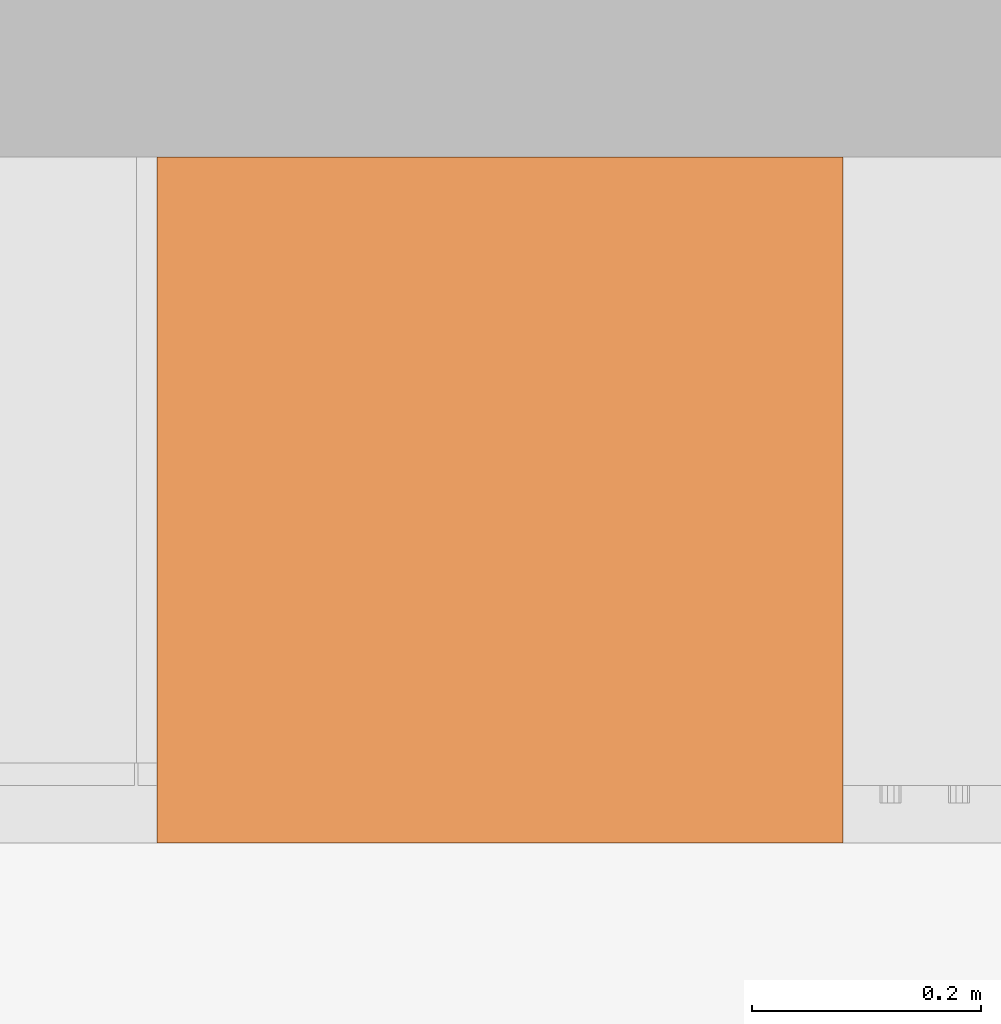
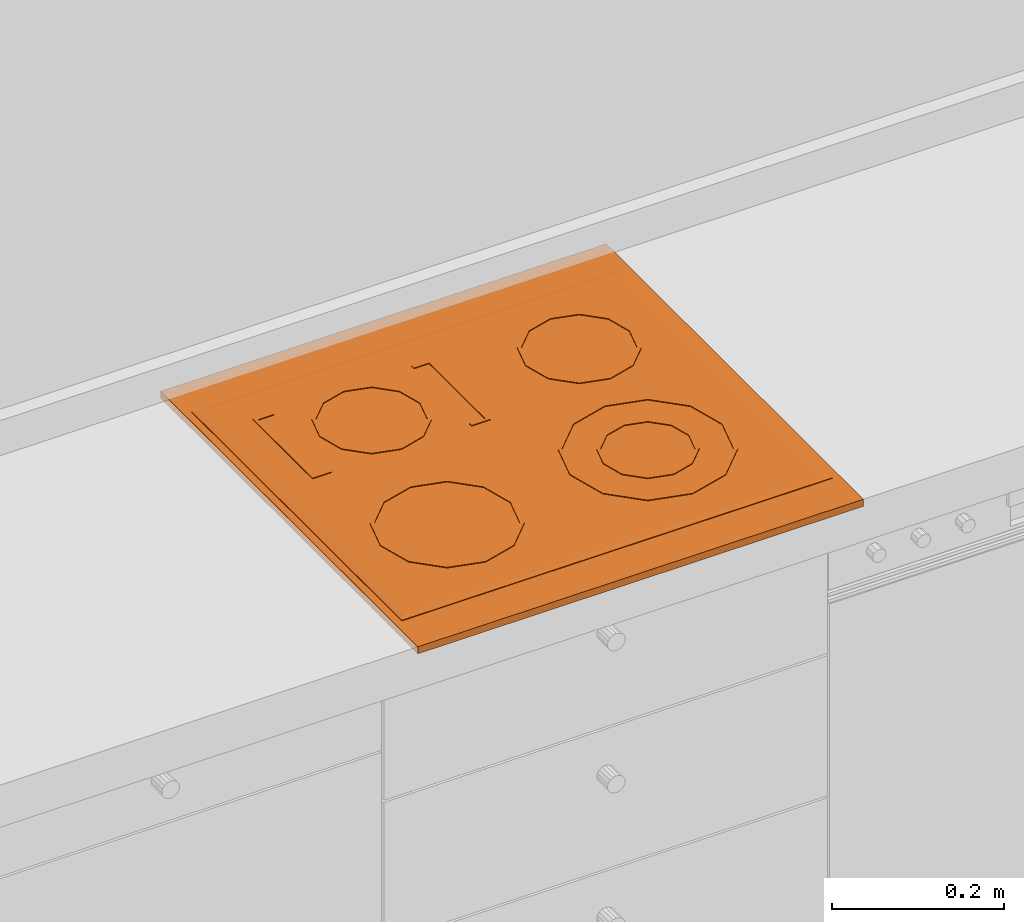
# One storey, part 27 of 28: 1 proxy.
"""IFC4 building model written with IfcOpenShell, lengths in metres."""

from ifc_helpers import new_model, entity, si_unit, converted_unit, derived_unit, direction, frame, origin_with_axes, place, context, subcontext, project, spatial, triangles, type_object, element, save


model = new_model("IFC4")

# Units and contexts
model_context = context("Model", 3, precision=1e-05, world=origin_with_axes(), true_north=direction((-0.526213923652, 0.850352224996)))
body_context = subcontext(model_context, "Body", "Model", "MODEL_VIEW")
ifc_project = project(units=[si_unit("LENGTHUNIT", "METRE"), si_unit("AREAUNIT", "SQUARE_METRE"), si_unit("VOLUMEUNIT", "CUBIC_METRE"), converted_unit("PLANEANGLEUNIT", "DEGREE", entity("IfcPlaneAngleMeasure", 0.0174532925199), si_unit("PLANEANGLEUNIT", "RADIAN"), dimensions=[0, 0, 0, 0, 0, 0, 0]), si_unit("SOLIDANGLEUNIT", "STERADIAN"), converted_unit("TIMEUNIT", "Year", entity("IfcTimeMeasure", 31556926.0), si_unit("TIMEUNIT", "SECOND"), dimensions=[0, 0, 1, 0, 0, 0, 0]), si_unit("MASSUNIT", "GRAM", prefix="KILO"), si_unit("THERMODYNAMICTEMPERATUREUNIT", "DEGREE_CELSIUS"), si_unit("LUMINOUSINTENSITYUNIT", "LUMEN"), si_unit("ENERGYUNIT", "JOULE", prefix="MEGA"), derived_unit("THERMALCONDUCTANCEUNIT", [(si_unit("POWERUNIT", "WATT"), 1), (si_unit("LENGTHUNIT", "METRE"), -1), (si_unit("THERMODYNAMICTEMPERATUREUNIT", "KELVIN"), -1)]), derived_unit("SPECIFICHEATCAPACITYUNIT", [(si_unit("ENERGYUNIT", "JOULE"), 1), (si_unit("MASSUNIT", "GRAM", prefix="KILO"), -1), (si_unit("THERMODYNAMICTEMPERATUREUNIT", "KELVIN"), -1)]), derived_unit("MASSDENSITYUNIT", [(si_unit("MASSUNIT", "GRAM", prefix="KILO"), 1), (si_unit("VOLUMEUNIT", "CUBIC_METRE"), -1)])], contexts=[model_context])

# Site, building, storey, space
site_placement = place(None, origin_with_axes())
site = spatial("IfcSite", under=ifc_project, at=site_placement, Name="Gelände", CompositionType="ELEMENT")
building_placement = place(site_placement, origin_with_axes())
building = spatial("IfcBuilding", under=site, at=building_placement, Name="Haus vom Nikolaus", CompositionType="ELEMENT")
storey_placement = place(building_placement, origin_with_axes())
storey = spatial("IfcBuildingStorey", under=building, at=storey_placement, Name="EG", CompositionType="ELEMENT", Elevation=0.0)
space_placement = place(storey_placement, frame((-3.09538684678, 5.36483190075, 0.0), z_axis=(0.0, 0.0, 1.0), x_axis=(1.0, 0.0, 0.0)))
space = spatial("IfcSpace", under=storey, at=space_placement, Name="EG", CompositionType="ELEMENT")

# Proxy
building_element_proxy_type = type_object("IfcBuildingElementProxyType", Name="Einbau Kochfeld 22", PredefinedType="NOTDEFINED")
proxy_placement = place(space_placement, frame((12.378656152, 1.27500017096, 0.241991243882), z_axis=(0.0, 0.0, 1.0), x_axis=(1.0, 0.0, 0.0)))
element("IfcBuildingElementProxy", 1, at=proxy_placement, inside=space, type_object=building_element_proxy_type, Name="Küche-011", PredefinedType="NOTDEFINED", context=body_context, shape_type="Tessellation", body=[
    triangles([(-0.6, 0.0, 0.9), (0.0, 0.0, 0.89), (0.0, 0.0, 0.9), (-0.6, 0.0, 0.89), (0.0, 0.6, 0.89), (0.0, 0.6, 0.9), (-0.6, 0.6, 0.9), (-0.6, 0.6, 0.89)], [[1, 2, 3], [1, 4, 2], [3, 5, 6], [3, 2, 5], [7, 3, 6], [7, 1, 3], [7, 4, 1], [7, 8, 4], [8, 2, 4], [8, 5, 2], [6, 8, 7], [6, 5, 8]], closed=True),
    triangles([(-0.59, 0.545000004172, 0.9), (-0.01, 0.055, 0.9), (-0.59, 0.055, 0.9), (-0.01, 0.545000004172, 0.9), (-0.589999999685, 0.0549999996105, 0.9008), (-0.00999999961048, 0.0549999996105, 0.9008), (-0.589999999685, 0.545000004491, 0.9008), (-0.00999999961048, 0.545000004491, 0.9008), (-0.583194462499, 0.0618055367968, 0.901999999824), (-0.0168055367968, 0.0618055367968, 0.901999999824), (-0.583194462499, 0.538194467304, 0.901999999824), (-0.0168055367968, 0.538194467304, 0.901999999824)], [[1, 2, 3], [1, 4, 2], [5, 2, 6], [5, 3, 2], [7, 3, 5], [7, 1, 3], [4, 7, 8], [7, 4, 1], [2, 8, 6], [8, 2, 4], [5, 6, 9], [9, 6, 10], [7, 5, 11], [11, 5, 9], [11, 8, 7], [8, 11, 12], [6, 8, 10], [10, 8, 12], [10, 11, 9], [10, 12, 11]], closed=True),
    triangles([(-0.0719131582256, 0.39311, 0.903), (-0.0622, 0.42936, 0.902), (-0.0622, 0.42936, 0.903), (-0.0719131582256, 0.39311, 0.902), (-0.0719131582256, 0.46561, 0.902), (-0.0719131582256, 0.46561, 0.903), (-0.0762432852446, 0.39561, 0.903), (-0.0672, 0.42936, 0.903), (-0.10095, 0.370903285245, 0.903), (-0.1347, 0.36186, 0.903), (-0.09845, 0.366573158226, 0.903), (-0.16845, 0.370903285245, 0.903), (-0.1347, 0.35686, 0.903), (-0.197486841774, 0.39311, 0.903), (-0.17095, 0.366573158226, 0.903), (-0.2022, 0.42936, 0.903), (-0.193156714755, 0.39561, 0.903), (-0.197486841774, 0.46561, 0.903), (-0.2072, 0.42936, 0.903), (-0.193156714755, 0.46311, 0.903), (-0.17095, 0.492146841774, 0.903), (-0.1347, 0.49686, 0.903), (-0.16845, 0.487816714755, 0.903), (-0.09845, 0.492146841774, 0.903), (-0.1347, 0.50186, 0.903), (-0.10095, 0.487816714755, 0.903), (-0.0762432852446, 0.46311, 0.903), (-0.09845, 0.366573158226, 0.902), (-0.0762432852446, 0.39561, 0.902), (-0.10095, 0.370903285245, 0.902), (-0.0672, 0.42936, 0.902), (-0.10095, 0.487816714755, 0.902), (-0.0762432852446, 0.46311, 0.902), (-0.1347, 0.49686, 0.902), (-0.09845, 0.492146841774, 0.902), (-0.17095, 0.492146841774, 0.902), (-0.1347, 0.50186, 0.902), (-0.193156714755, 0.46311, 0.902), (-0.16845, 0.487816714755, 0.902), (-0.2072, 0.42936, 0.902), (-0.197486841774, 0.46561, 0.902), (-0.193156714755, 0.39561, 0.902), (-0.2022, 0.42936, 0.902), (-0.16845, 0.370903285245, 0.902), (-0.197486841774, 0.39311, 0.902), (-0.1347, 0.36186, 0.902), (-0.17095, 0.366573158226, 0.902), (-0.1347, 0.35686, 0.902)], [[1, 2, 3], [1, 4, 2], [3, 5, 6], [3, 2, 5], [7, 3, 8], [6, 8, 3], [9, 1, 7], [3, 7, 1], [10, 11, 9], [1, 9, 11], [12, 13, 10], [11, 10, 13], [12, 14, 15], [13, 12, 15], [16, 14, 17], [12, 17, 14], [16, 18, 19], [14, 16, 19], [20, 21, 18], [16, 20, 18], [22, 21, 23], [20, 23, 21], [22, 24, 25], [21, 22, 25], [26, 6, 24], [22, 26, 24], [27, 8, 6], [26, 27, 6], [11, 4, 1], [11, 28, 4], [29, 28, 30], [31, 5, 2], [29, 2, 4], [32, 5, 33], [31, 33, 5], [34, 35, 32], [5, 32, 35], [34, 36, 37], [35, 34, 37], [38, 36, 39], [34, 39, 36], [38, 40, 41], [36, 38, 41], [42, 40, 43], [38, 43, 40], [44, 45, 42], [40, 42, 45], [46, 47, 44], [45, 44, 47], [30, 48, 46], [47, 46, 48], [48, 30, 28], [2, 29, 31], [28, 29, 4], [6, 35, 24], [6, 5, 35], [24, 37, 25], [24, 35, 37], [25, 36, 21], [25, 37, 36], [21, 41, 18], [21, 36, 41], [18, 40, 19], [18, 41, 40], [19, 45, 14], [19, 40, 45], [14, 47, 15], [14, 45, 47], [15, 48, 13], [15, 47, 48], [13, 28, 11], [13, 48, 28], [8, 29, 7], [8, 31, 29], [7, 30, 9], [7, 29, 30], [9, 46, 10], [9, 30, 46], [10, 44, 12], [10, 46, 44], [12, 42, 17], [12, 44, 42], [17, 43, 16], [17, 42, 43], [16, 38, 20], [16, 43, 38], [20, 39, 23], [20, 38, 39], [23, 34, 22], [23, 39, 34], [22, 32, 26], [22, 34, 32], [26, 33, 27], [26, 32, 33], [27, 31, 8], [27, 33, 31]], closed=True),
    triangles([(-0.0774073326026, 0.15881, 0.903), (-0.06334, 0.21131, 0.902), (-0.06334, 0.21131, 0.903), (-0.0774073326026, 0.15881, 0.902), (-0.0774073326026, 0.26381, 0.902), (-0.0774073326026, 0.26381, 0.903), (-0.21834, 0.124707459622, 0.903), (-0.22084, 0.120377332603, 0.903), (-0.16834, 0.11131, 0.903), (-0.22084, 0.302242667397, 0.903), (-0.16834, 0.31131, 0.903), (-0.16834, 0.31631, 0.903), (-0.11834, 0.297912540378, 0.903), (-0.11584, 0.302242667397, 0.903), (-0.254942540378, 0.26131, 0.903), (-0.259272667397, 0.26381, 0.903), (-0.26834, 0.21131, 0.903), (-0.254942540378, 0.16131, 0.903), (-0.259272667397, 0.15881, 0.903), (-0.27334, 0.21131, 0.903), (-0.16834, 0.10631, 0.903), (-0.11834, 0.124707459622, 0.903), (-0.11584, 0.120377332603, 0.903), (-0.0817374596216, 0.16131, 0.903), (-0.06834, 0.21131, 0.903), (-0.21834, 0.297912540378, 0.903), (-0.0817374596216, 0.26131, 0.903), (-0.11584, 0.120377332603, 0.902), (-0.06834, 0.21131, 0.902), (-0.0817374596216, 0.16131, 0.902), (-0.0817374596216, 0.26131, 0.902), (-0.11584, 0.302242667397, 0.902), (-0.11834, 0.297912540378, 0.902), (-0.16834, 0.31631, 0.902), (-0.16834, 0.31131, 0.902), (-0.22084, 0.302242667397, 0.902), (-0.254942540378, 0.26131, 0.902), (-0.21834, 0.297912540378, 0.902), (-0.26834, 0.21131, 0.902), (-0.259272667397, 0.26381, 0.902), (-0.259272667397, 0.15881, 0.902), (-0.27334, 0.21131, 0.902), (-0.254942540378, 0.16131, 0.902), (-0.22084, 0.120377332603, 0.902), (-0.16834, 0.11131, 0.902), (-0.21834, 0.124707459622, 0.902), (-0.11834, 0.124707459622, 0.902), (-0.16834, 0.10631, 0.902)], [[1, 2, 3], [1, 4, 2], [3, 5, 6], [3, 2, 5], [7, 8, 9], [10, 11, 12], [13, 6, 14], [15, 16, 17], [8, 18, 19], [19, 17, 20], [9, 21, 22], [1, 22, 23], [24, 3, 25], [3, 24, 1], [6, 25, 3], [26, 10, 15], [13, 14, 11], [22, 1, 24], [23, 22, 21], [21, 9, 8], [18, 8, 7], [17, 19, 18], [20, 17, 16], [16, 15, 10], [11, 10, 26], [12, 11, 14], [27, 6, 13], [6, 27, 25], [23, 4, 1], [23, 28, 4], [29, 5, 2], [30, 2, 4], [31, 32, 5], [29, 31, 5], [33, 34, 32], [31, 33, 32], [35, 36, 34], [33, 35, 34], [37, 36, 38], [35, 38, 36], [39, 40, 37], [36, 37, 40], [39, 41, 42], [40, 39, 42], [43, 44, 41], [39, 43, 41], [45, 44, 46], [43, 46, 44], [47, 48, 45], [44, 45, 48], [47, 4, 28], [48, 47, 28], [2, 30, 29], [47, 30, 4], [6, 32, 14], [6, 5, 32], [14, 34, 12], [14, 32, 34], [12, 36, 10], [12, 34, 36], [10, 40, 16], [10, 36, 40], [16, 42, 20], [16, 40, 42], [20, 41, 19], [20, 42, 41], [19, 44, 8], [19, 41, 44], [8, 48, 21], [8, 44, 48], [21, 28, 23], [21, 48, 28], [25, 30, 24], [25, 29, 30], [24, 47, 22], [24, 30, 47], [22, 45, 9], [22, 47, 45], [9, 46, 7], [9, 45, 46], [7, 43, 18], [7, 46, 43], [18, 39, 17], [18, 43, 39], [17, 37, 15], [17, 39, 37], [15, 38, 26], [15, 37, 38], [26, 35, 11], [26, 38, 35], [11, 33, 13], [11, 35, 33], [13, 31, 27], [13, 33, 31], [27, 29, 25], [27, 31, 29]], closed=True),
    triangles([(-0.116378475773, 0.18131, 0.903), (-0.10834, 0.21131, 0.902), (-0.10834, 0.21131, 0.903), (-0.116378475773, 0.18131, 0.902), (-0.116378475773, 0.24131, 0.902), (-0.116378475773, 0.24131, 0.903), (-0.120708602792, 0.18381, 0.903), (-0.11334, 0.21131, 0.903), (-0.13834, 0.159348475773, 0.903), (-0.14084, 0.163678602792, 0.903), (-0.16834, 0.15131, 0.903), (-0.19584, 0.163678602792, 0.903), (-0.16834, 0.15631, 0.903), (-0.220301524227, 0.18131, 0.903), (-0.19834, 0.159348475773, 0.903), (-0.215971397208, 0.18381, 0.903), (-0.22834, 0.21131, 0.903), (-0.22334, 0.21131, 0.903), (-0.220301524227, 0.24131, 0.903), (-0.215971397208, 0.23881, 0.903), (-0.19834, 0.263271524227, 0.903), (-0.19584, 0.258941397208, 0.903), (-0.16834, 0.27131, 0.903), (-0.16834, 0.26631, 0.903), (-0.13834, 0.263271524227, 0.903), (-0.14084, 0.258941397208, 0.903), (-0.120708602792, 0.23881, 0.903), (-0.13834, 0.159348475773, 0.902), (-0.11334, 0.21131, 0.902), (-0.120708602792, 0.18381, 0.902), (-0.14084, 0.258941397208, 0.902), (-0.120708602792, 0.23881, 0.902), (-0.16834, 0.26631, 0.902), (-0.13834, 0.263271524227, 0.902), (-0.19584, 0.258941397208, 0.902), (-0.16834, 0.27131, 0.902), (-0.220301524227, 0.24131, 0.902), (-0.19834, 0.263271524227, 0.902), (-0.215971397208, 0.23881, 0.902), (-0.22834, 0.21131, 0.902), (-0.22334, 0.21131, 0.902), (-0.220301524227, 0.18131, 0.902), (-0.215971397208, 0.18381, 0.902), (-0.19834, 0.159348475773, 0.902), (-0.19584, 0.163678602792, 0.902), (-0.16834, 0.15131, 0.902), (-0.14084, 0.163678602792, 0.902), (-0.16834, 0.15631, 0.902)], [[1, 2, 3], [1, 4, 2], [3, 5, 6], [3, 2, 5], [7, 3, 8], [6, 8, 3], [7, 9, 1], [3, 7, 1], [10, 11, 9], [7, 10, 9], [12, 11, 13], [10, 13, 11], [12, 14, 15], [11, 12, 15], [16, 17, 14], [12, 16, 14], [18, 19, 17], [16, 18, 17], [20, 21, 19], [18, 20, 19], [22, 23, 21], [20, 22, 21], [24, 25, 23], [22, 24, 23], [26, 6, 25], [24, 26, 25], [27, 8, 6], [26, 27, 6], [9, 4, 1], [9, 28, 4], [29, 5, 2], [30, 2, 4], [31, 5, 32], [29, 32, 5], [33, 34, 31], [5, 31, 34], [35, 36, 33], [34, 33, 36], [35, 37, 38], [36, 35, 38], [39, 40, 37], [35, 39, 37], [41, 42, 40], [39, 41, 40], [43, 44, 42], [41, 43, 42], [45, 46, 44], [43, 45, 44], [47, 46, 48], [45, 48, 46], [47, 4, 28], [46, 47, 28], [2, 30, 29], [47, 30, 4], [6, 34, 25], [6, 5, 34], [25, 36, 23], [25, 34, 36], [23, 38, 21], [23, 36, 38], [21, 37, 19], [21, 38, 37], [19, 40, 17], [19, 37, 40], [17, 42, 14], [17, 40, 42], [14, 44, 15], [14, 42, 44], [15, 46, 11], [15, 44, 46], [11, 28, 9], [11, 46, 28], [8, 30, 7], [8, 29, 30], [7, 47, 10], [7, 30, 47], [10, 48, 13], [10, 47, 48], [13, 45, 12], [13, 48, 45], [12, 43, 16], [12, 45, 43], [16, 41, 18], [16, 43, 41], [18, 39, 20], [18, 41, 39], [20, 35, 22], [20, 39, 35], [22, 33, 24], [22, 35, 33], [24, 31, 26], [24, 33, 31], [26, 32, 27], [26, 31, 32], [27, 29, 8], [27, 32, 29]], closed=True),
    triangles([(-0.356538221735, 0.38946, 0.903), (-0.34716, 0.42446, 0.902), (-0.34716, 0.42446, 0.903), (-0.356538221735, 0.38946, 0.902), (-0.356538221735, 0.45946, 0.902), (-0.356538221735, 0.45946, 0.903), (-0.360868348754, 0.45696, 0.903), (-0.38216, 0.485081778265, 0.903), (-0.38466, 0.480751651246, 0.903), (-0.360868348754, 0.39196, 0.903), (-0.35216, 0.42446, 0.903), (-0.38466, 0.368168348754, 0.903), (-0.41716, 0.35946, 0.903), (-0.38216, 0.363838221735, 0.903), (-0.44966, 0.368168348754, 0.903), (-0.41716, 0.35446, 0.903), (-0.473451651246, 0.39196, 0.903), (-0.45216, 0.363838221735, 0.903), (-0.48216, 0.42446, 0.903), (-0.477781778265, 0.38946, 0.903), (-0.473451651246, 0.45696, 0.903), (-0.48716, 0.42446, 0.903), (-0.44966, 0.480751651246, 0.903), (-0.477781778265, 0.45946, 0.903), (-0.41716, 0.48946, 0.903), (-0.45216, 0.485081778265, 0.903), (-0.41716, 0.49446, 0.903), (-0.38216, 0.363838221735, 0.902), (-0.35216, 0.42446, 0.902), (-0.360868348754, 0.39196, 0.902), (-0.360868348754, 0.45696, 0.902), (-0.38216, 0.485081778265, 0.902), (-0.38466, 0.480751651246, 0.902), (-0.41716, 0.49446, 0.902), (-0.41716, 0.48946, 0.902), (-0.45216, 0.485081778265, 0.902), (-0.44966, 0.480751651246, 0.902), (-0.477781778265, 0.45946, 0.902), (-0.473451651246, 0.45696, 0.902), (-0.48716, 0.42446, 0.902), (-0.473451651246, 0.39196, 0.902), (-0.48216, 0.42446, 0.902), (-0.45216, 0.363838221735, 0.902), (-0.477781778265, 0.38946, 0.902), (-0.44966, 0.368168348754, 0.902), (-0.41716, 0.35446, 0.902), (-0.38466, 0.368168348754, 0.902), (-0.41716, 0.35946, 0.902)], [[1, 2, 3], [1, 4, 2], [3, 5, 6], [3, 2, 5], [7, 8, 9], [10, 3, 11], [6, 11, 3], [12, 1, 10], [3, 10, 1], [13, 14, 12], [1, 12, 14], [15, 16, 13], [14, 13, 16], [17, 18, 15], [16, 15, 18], [19, 20, 17], [18, 17, 20], [21, 22, 19], [20, 19, 22], [23, 24, 21], [22, 21, 24], [25, 26, 23], [24, 23, 26], [9, 27, 25], [26, 25, 27], [27, 9, 8], [7, 11, 6], [8, 7, 6], [14, 4, 1], [14, 28, 4], [29, 5, 2], [30, 2, 4], [31, 32, 5], [29, 31, 5], [33, 34, 32], [31, 33, 32], [35, 36, 34], [33, 35, 34], [37, 38, 36], [35, 37, 36], [39, 40, 38], [37, 39, 38], [41, 40, 42], [39, 42, 40], [41, 43, 44], [40, 41, 44], [45, 46, 43], [41, 45, 43], [47, 46, 48], [45, 48, 46], [47, 4, 28], [46, 47, 28], [2, 30, 29], [47, 30, 4], [6, 32, 8], [6, 5, 32], [8, 34, 27], [8, 32, 34], [27, 36, 26], [27, 34, 36], [26, 38, 24], [26, 36, 38], [24, 40, 22], [24, 38, 40], [22, 44, 20], [22, 40, 44], [20, 43, 18], [20, 44, 43], [18, 46, 16], [18, 43, 46], [16, 28, 14], [16, 46, 28], [11, 30, 10], [11, 29, 30], [10, 47, 12], [10, 30, 47], [12, 48, 13], [12, 47, 48], [13, 45, 15], [13, 48, 45], [15, 41, 17], [15, 45, 41], [17, 42, 19], [17, 41, 42], [19, 39, 21], [19, 42, 39], [21, 37, 23], [21, 39, 37], [23, 35, 25], [23, 37, 35], [25, 33, 9], [25, 35, 33], [9, 31, 7], [9, 33, 31], [7, 29, 11], [7, 31, 29]], closed=True),
    triangles([(-0.368797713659, 0.1521, 0.903), (-0.35674, 0.1971, 0.902), (-0.35674, 0.1971, 0.903), (-0.368797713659, 0.1521, 0.902), (-0.368797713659, 0.2421, 0.902), (-0.368797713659, 0.2421, 0.903), (-0.373127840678, 0.2396, 0.903), (-0.40174, 0.275042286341, 0.903), (-0.40424, 0.270712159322, 0.903), (-0.373127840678, 0.1546, 0.903), (-0.36174, 0.1971, 0.903), (-0.40174, 0.119157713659, 0.903), (-0.40424, 0.123487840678, 0.903), (-0.44674, 0.1071, 0.903), (-0.48924, 0.123487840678, 0.903), (-0.44674, 0.1121, 0.903), (-0.520352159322, 0.1546, 0.903), (-0.49174, 0.119157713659, 0.903), (-0.53674, 0.1971, 0.903), (-0.524682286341, 0.1521, 0.903), (-0.53174, 0.1971, 0.903), (-0.524682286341, 0.2421, 0.903), (-0.520352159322, 0.2396, 0.903), (-0.49174, 0.275042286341, 0.903), (-0.48924, 0.270712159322, 0.903), (-0.44674, 0.2871, 0.903), (-0.44674, 0.2821, 0.903), (-0.40174, 0.119157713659, 0.902), (-0.373127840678, 0.1546, 0.902), (-0.40424, 0.123487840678, 0.902), (-0.36174, 0.1971, 0.902), (-0.373127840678, 0.2396, 0.902), (-0.40174, 0.275042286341, 0.902), (-0.44674, 0.2821, 0.902), (-0.40424, 0.270712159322, 0.902), (-0.48924, 0.270712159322, 0.902), (-0.44674, 0.2871, 0.902), (-0.520352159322, 0.2396, 0.902), (-0.49174, 0.275042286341, 0.902), (-0.53174, 0.1971, 0.902), (-0.524682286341, 0.2421, 0.902), (-0.524682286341, 0.1521, 0.902), (-0.53674, 0.1971, 0.902), (-0.520352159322, 0.1546, 0.902), (-0.49174, 0.119157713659, 0.902), (-0.48924, 0.123487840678, 0.902), (-0.44674, 0.1071, 0.902), (-0.44674, 0.1121, 0.902)], [[1, 2, 3], [1, 4, 2], [3, 5, 6], [3, 2, 5], [7, 8, 9], [10, 3, 11], [6, 11, 3], [10, 12, 1], [3, 10, 1], [13, 14, 12], [10, 13, 12], [15, 14, 16], [13, 16, 14], [17, 18, 15], [14, 15, 18], [17, 19, 20], [18, 17, 20], [21, 22, 19], [17, 21, 19], [23, 24, 22], [21, 23, 22], [25, 26, 24], [23, 25, 24], [9, 26, 27], [25, 27, 26], [26, 9, 8], [7, 11, 6], [8, 7, 6], [12, 4, 1], [12, 28, 4], [29, 28, 30], [31, 5, 2], [29, 2, 4], [32, 33, 5], [31, 32, 5], [34, 33, 35], [32, 35, 33], [36, 37, 34], [33, 34, 37], [38, 39, 36], [37, 36, 39], [40, 41, 38], [39, 38, 41], [40, 42, 43], [41, 40, 43], [44, 45, 42], [40, 44, 42], [46, 47, 45], [44, 46, 45], [30, 47, 48], [46, 48, 47], [47, 30, 28], [2, 29, 31], [28, 29, 4], [6, 33, 8], [6, 5, 33], [8, 37, 26], [8, 33, 37], [26, 39, 24], [26, 37, 39], [24, 41, 22], [24, 39, 41], [22, 43, 19], [22, 41, 43], [19, 42, 20], [19, 43, 42], [20, 45, 18], [20, 42, 45], [18, 47, 14], [18, 45, 47], [14, 28, 12], [14, 47, 28], [11, 29, 10], [11, 31, 29], [10, 30, 13], [10, 29, 30], [13, 48, 16], [13, 30, 48], [16, 46, 15], [16, 48, 46], [15, 44, 17], [15, 46, 44], [17, 40, 21], [17, 44, 40], [21, 38, 23], [21, 40, 38], [23, 36, 25], [23, 38, 36], [25, 34, 27], [25, 36, 34], [27, 35, 9], [27, 34, 35], [9, 32, 7], [9, 35, 32], [7, 31, 11], [7, 32, 31]], closed=True),
    triangles([(-0.322821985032, 0.354602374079, 0.903), (-0.29716, 0.354602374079, 0.902), (-0.29716, 0.354602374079, 0.903), (-0.322821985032, 0.354602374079, 0.902), (-0.29716, 0.494317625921, 0.902), (-0.29716, 0.494317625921, 0.903), (-0.30216, 0.359602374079, 0.903), (-0.30216, 0.489317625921, 0.903), (-0.322821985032, 0.494317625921, 0.903), (-0.322821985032, 0.489317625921, 0.903), (-0.322821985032, 0.359602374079, 0.903), (-0.322821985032, 0.359602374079, 0.902), (-0.30216, 0.489317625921, 0.902), (-0.30216, 0.359602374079, 0.902), (-0.322821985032, 0.494317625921, 0.902), (-0.322821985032, 0.489317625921, 0.902)], [[1, 2, 3], [1, 4, 2], [3, 5, 6], [3, 2, 5], [7, 1, 3], [8, 9, 10], [8, 7, 3], [9, 8, 6], [6, 8, 3], [1, 7, 11], [11, 4, 1], [11, 12, 4], [5, 2, 13], [14, 4, 12], [13, 2, 14], [4, 14, 2], [15, 5, 13], [15, 13, 16], [6, 15, 9], [6, 5, 15], [9, 16, 10], [9, 15, 16], [10, 13, 8], [10, 16, 13], [8, 14, 7], [8, 13, 14], [7, 12, 11], [7, 14, 12]], closed=True),
    triangles([(-0.53716, 0.494317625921, 0.903), (-0.53716, 0.354602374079, 0.902), (-0.53716, 0.354602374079, 0.903), (-0.53716, 0.494317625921, 0.902), (-0.511498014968, 0.354602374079, 0.902), (-0.511498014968, 0.354602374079, 0.903), (-0.53216, 0.489317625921, 0.903), (-0.53216, 0.359602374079, 0.903), (-0.511498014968, 0.359602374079, 0.903), (-0.511498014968, 0.494317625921, 0.903), (-0.511498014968, 0.489317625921, 0.903), (-0.511498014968, 0.494317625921, 0.902), (-0.53216, 0.359602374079, 0.902), (-0.53216, 0.489317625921, 0.902), (-0.511498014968, 0.489317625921, 0.902), (-0.511498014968, 0.359602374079, 0.902)], [[1, 2, 3], [1, 4, 2], [3, 5, 6], [3, 2, 5], [1, 3, 7], [8, 6, 9], [7, 3, 8], [6, 8, 3], [10, 1, 7], [10, 7, 11], [10, 4, 1], [10, 12, 4], [13, 5, 2], [14, 12, 15], [14, 13, 2], [12, 14, 4], [4, 14, 2], [5, 13, 16], [6, 16, 9], [6, 5, 16], [9, 13, 8], [9, 16, 13], [8, 14, 7], [8, 13, 14], [7, 15, 11], [7, 14, 15], [11, 12, 10], [11, 15, 12]], closed=True),
])

save(model, "model.ifc")
